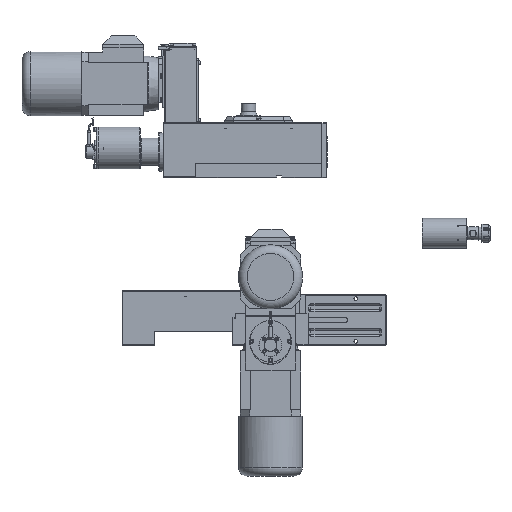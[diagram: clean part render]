
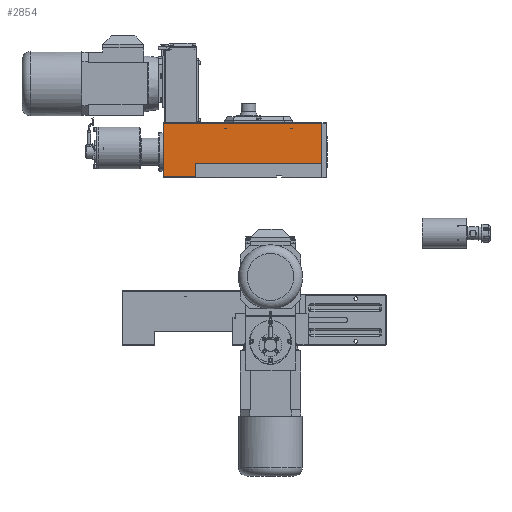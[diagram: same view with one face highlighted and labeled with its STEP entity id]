
A CAD part, front view. The second image highlights one B-rep face of the part: STEP entity #2854.
In plain terms, the highlighted planar face has unit normal (0, -1, 0).
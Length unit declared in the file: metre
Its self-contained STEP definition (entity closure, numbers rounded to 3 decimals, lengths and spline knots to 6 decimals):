
#2854 = ADVANCED_FACE( '', ( #4170 ), #4171, .T. );
#4170 = FACE_OUTER_BOUND( '', #6689, .T. );
#4171 = PLANE( '', #6690 );
#6689 = EDGE_LOOP( '', ( #10705, #10706, #10707, #10708, #10709, #10710 ) );
#6690 = AXIS2_PLACEMENT_3D( '', #10711, #10712, #10713 );
#10705 = ORIENTED_EDGE( '', *, *, #17580, .F. );
#10706 = ORIENTED_EDGE( '', *, *, #17629, .F. );
#10707 = ORIENTED_EDGE( '', *, *, #17630, .F. );
#10708 = ORIENTED_EDGE( '', *, *, #17631, .F. );
#10709 = ORIENTED_EDGE( '', *, *, #17610, .T. );
#10710 = ORIENTED_EDGE( '', *, *, #17594, .T. );
#10711 = CARTESIAN_POINT( '', ( 0.025, -0.019444, 0. ) );
#10712 = DIRECTION( '', ( 0., -1., 0. ) );
#10713 = DIRECTION( '', ( 0., 0., -1. ) );
#17580 = EDGE_CURVE( '', #19909, #19904, #19911, .T. );
#17594 = EDGE_CURVE( '', #19935, #19904, #19936, .T. );
#17610 = EDGE_CURVE( '', #19962, #19935, #19963, .T. );
#17629 = EDGE_CURVE( '', #19993, #19909, #19995, .T. );
#17630 = EDGE_CURVE( '', #19899, #19993, #19996, .T. );
#17631 = EDGE_CURVE( '', #19962, #19899, #19997, .T. );
#19899 = VERTEX_POINT( '', #24105 );
#19904 = VERTEX_POINT( '', #24113 );
#19909 = VERTEX_POINT( '', #24120 );
#19911 = LINE( '', #24123, #24124 );
#19935 = VERTEX_POINT( '', #24159 );
#19936 = LINE( '', #24160, #24161 );
#19962 = VERTEX_POINT( '', #24200 );
#19963 = LINE( '', #24201, #24202 );
#19993 = VERTEX_POINT( '', #24243 );
#19995 = LINE( '', #24246, #24247 );
#19996 = LINE( '', #24248, #24249 );
#19997 = LINE( '', #24250, #24251 );
#24105 = CARTESIAN_POINT( '', ( -0.3465, -0.019444, 0.0005 ) );
#24113 = CARTESIAN_POINT( '', ( 0.0245, -0.019444, 0.032 ) );
#24120 = CARTESIAN_POINT( '', ( 0.0245, -0.019444, 0.1265 ) );
#24123 = CARTESIAN_POINT( '', ( 0.0245, -0.019444, 0. ) );
#24124 = VECTOR( '', #30654, 1. );
#24159 = CARTESIAN_POINT( '', ( -0.271, -0.019444, 0.032 ) );
#24160 = CARTESIAN_POINT( '', ( -0.049, -0.019444, 0.032 ) );
#24161 = VECTOR( '', #30672, 1. );
#24200 = CARTESIAN_POINT( '', ( -0.271, -0.019444, 0.0005 ) );
#24201 = CARTESIAN_POINT( '', ( -0.271, -0.019444, 0. ) );
#24202 = VECTOR( '', #30692, 1. );
#24243 = CARTESIAN_POINT( '', ( -0.3465, -0.019444, 0.1265 ) );
#24246 = CARTESIAN_POINT( '', ( -0.068, -0.019444, 0.1265 ) );
#24247 = VECTOR( '', #30723, 1. );
#24248 = CARTESIAN_POINT( '', ( -0.3465, -0.019444, 0. ) );
#24249 = VECTOR( '', #30724, 1. );
#24250 = CARTESIAN_POINT( '', ( -0.068, -0.019444, 0.0005 ) );
#24251 = VECTOR( '', #30725, 1. );
#30654 = DIRECTION( '', ( 0., 0., -1. ) );
#30672 = DIRECTION( '', ( 1., 0., 0. ) );
#30692 = DIRECTION( '', ( 0., 0., 1. ) );
#30723 = DIRECTION( '', ( 1., 0., 0. ) );
#30724 = DIRECTION( '', ( 0., 0., 1. ) );
#30725 = DIRECTION( '', ( -1., 0., 0. ) );
